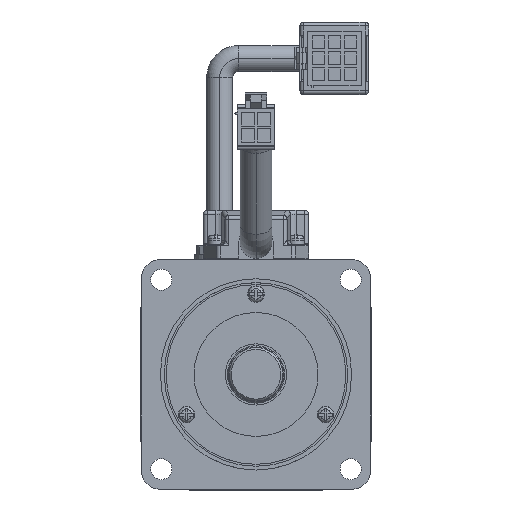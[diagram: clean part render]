
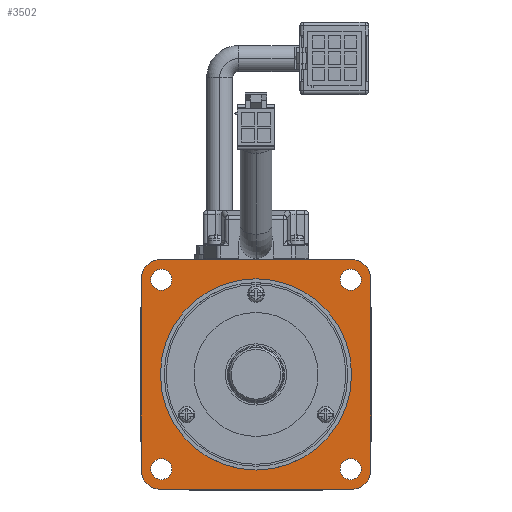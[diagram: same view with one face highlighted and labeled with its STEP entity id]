
A CAD part, top view. The second image highlights one B-rep face of the part: STEP entity #3502.
In plain terms, the highlighted planar face has unit normal (0, 0, 1) as drawn and (0, 0, -1) by its records, which use the part's own axes.
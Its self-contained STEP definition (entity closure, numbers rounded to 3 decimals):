
#1749=CARTESIAN_POINT('',(0.,0.,3.));
#1750=DIRECTION('',(0.,0.,1.));
#1751=DIRECTION('',(-1.,0.,0.));
#1752=AXIS2_PLACEMENT_3D('',#1749,#1750,#1751);
#1754=CARTESIAN_POINT('',(0.,0.,3.));
#1755=DIRECTION('',(0.,0.,1.));
#1756=DIRECTION('',(1.,0.,0.));
#1757=AXIS2_PLACEMENT_3D('',#1754,#1755,#1756);
#1759=CARTESIAN_POINT('',(25.,25.,3.));
#1760=DIRECTION('',(0.,0.,-1.));
#1761=DIRECTION('',(0.,1.,0.));
#1762=AXIS2_PLACEMENT_3D('',#1759,#1760,#1761);
#1764=CARTESIAN_POINT('',(-25.,25.,3.));
#1765=DIRECTION('',(0.,0.,-1.));
#1766=DIRECTION('',(-1.,0.,0.));
#1767=AXIS2_PLACEMENT_3D('',#1764,#1765,#1766);
#1769=CARTESIAN_POINT('',(-25.,-25.,3.));
#1770=DIRECTION('',(0.,0.,-1.));
#1771=DIRECTION('',(0.,-1.,0.));
#1772=AXIS2_PLACEMENT_3D('',#1769,#1770,#1771);
#1774=CARTESIAN_POINT('',(25.,-25.,3.));
#1775=DIRECTION('',(0.,0.,-1.));
#1776=DIRECTION('',(1.,0.,0.));
#1777=AXIS2_PLACEMENT_3D('',#1774,#1775,#1776);
#1779=CARTESIAN_POINT('',(-24.749,24.749,3.));
#1780=DIRECTION('',(0.,0.,-1.));
#1781=DIRECTION('',(-1.,0.,0.));
#1782=AXIS2_PLACEMENT_3D('',#1779,#1780,#1781);
#1784=CARTESIAN_POINT('',(-24.749,24.749,3.));
#1785=DIRECTION('',(0.,0.,-1.));
#1786=DIRECTION('',(1.,0.,0.));
#1787=AXIS2_PLACEMENT_3D('',#1784,#1785,#1786);
#1789=CARTESIAN_POINT('',(24.749,24.749,3.));
#1790=DIRECTION('',(0.,0.,-1.));
#1791=DIRECTION('',(-1.,0.,0.));
#1792=AXIS2_PLACEMENT_3D('',#1789,#1790,#1791);
#1794=CARTESIAN_POINT('',(24.749,24.749,3.));
#1795=DIRECTION('',(0.,0.,-1.));
#1796=DIRECTION('',(1.,0.,0.));
#1797=AXIS2_PLACEMENT_3D('',#1794,#1795,#1796);
#1799=CARTESIAN_POINT('',(24.749,-24.749,3.));
#1800=DIRECTION('',(0.,0.,-1.));
#1801=DIRECTION('',(-1.,0.,0.));
#1802=AXIS2_PLACEMENT_3D('',#1799,#1800,#1801);
#1804=CARTESIAN_POINT('',(24.749,-24.749,3.));
#1805=DIRECTION('',(0.,0.,-1.));
#1806=DIRECTION('',(1.,0.,0.));
#1807=AXIS2_PLACEMENT_3D('',#1804,#1805,#1806);
#1809=CARTESIAN_POINT('',(-24.749,-24.749,3.));
#1810=DIRECTION('',(0.,0.,-1.));
#1811=DIRECTION('',(-1.,0.,0.));
#1812=AXIS2_PLACEMENT_3D('',#1809,#1810,#1811);
#1814=CARTESIAN_POINT('',(-24.749,-24.749,3.));
#1815=DIRECTION('',(0.,0.,-1.));
#1816=DIRECTION('',(1.,0.,0.));
#1817=AXIS2_PLACEMENT_3D('',#1814,#1815,#1816);
#1827=DIRECTION('',(1.,0.,0.));
#1828=VECTOR('',#1827,50.);
#1829=CARTESIAN_POINT('',(-25.,30.,3.));
#1830=LINE('',#1829,#1828);
#2270=DIRECTION('',(-1.,0.,0.));
#2271=VECTOR('',#2270,50.);
#2272=CARTESIAN_POINT('',(25.,-30.,3.));
#2273=LINE('',#2272,#2271);
#2581=DIRECTION('',(0.,1.,0.));
#2582=VECTOR('',#2581,50.);
#2583=CARTESIAN_POINT('',(-30.,-25.,3.));
#2584=LINE('',#2583,#2582);
#2793=DIRECTION('',(0.,-1.,0.));
#2794=VECTOR('',#2793,50.);
#2795=CARTESIAN_POINT('',(30.,25.,3.));
#2796=LINE('',#2795,#2794);
#3025=CARTESIAN_POINT('',(-25.,0.,3.));
#3026=CARTESIAN_POINT('',(25.,0.,3.));
#3027=VERTEX_POINT('',#3025);
#3028=VERTEX_POINT('',#3026);
#3057=CARTESIAN_POINT('',(25.,30.,3.));
#3059=VERTEX_POINT('',#3057);
#3061=CARTESIAN_POINT('',(30.,25.,3.));
#3062=VERTEX_POINT('',#3061);
#3065=CARTESIAN_POINT('',(-30.,25.,3.));
#3067=VERTEX_POINT('',#3065);
#3069=CARTESIAN_POINT('',(-25.,30.,3.));
#3070=VERTEX_POINT('',#3069);
#3073=CARTESIAN_POINT('',(30.,-25.,3.));
#3075=VERTEX_POINT('',#3073);
#3077=CARTESIAN_POINT('',(25.,-30.,3.));
#3078=VERTEX_POINT('',#3077);
#3081=CARTESIAN_POINT('',(-25.,-30.,3.));
#3083=VERTEX_POINT('',#3081);
#3085=CARTESIAN_POINT('',(-30.,-25.,3.));
#3086=VERTEX_POINT('',#3085);
#3161=CARTESIAN_POINT('',(-27.499,24.749,3.));
#3162=CARTESIAN_POINT('',(-21.999,24.749,3.));
#3163=VERTEX_POINT('',#3161);
#3164=VERTEX_POINT('',#3162);
#3165=CARTESIAN_POINT('',(21.999,24.749,3.));
#3166=CARTESIAN_POINT('',(27.499,24.749,3.));
#3167=VERTEX_POINT('',#3165);
#3168=VERTEX_POINT('',#3166);
#3169=CARTESIAN_POINT('',(21.999,-24.749,3.));
#3170=CARTESIAN_POINT('',(27.499,-24.749,3.));
#3171=VERTEX_POINT('',#3169);
#3172=VERTEX_POINT('',#3170);
#3173=CARTESIAN_POINT('',(-27.499,-24.749,3.));
#3174=CARTESIAN_POINT('',(-21.999,-24.749,3.));
#3175=VERTEX_POINT('',#3173);
#3176=VERTEX_POINT('',#3174);
#3451=CARTESIAN_POINT('',(0.,0.,3.));
#3452=DIRECTION('',(0.,0.,-1.));
#3453=DIRECTION('',(-1.,0.,0.));
#3454=AXIS2_PLACEMENT_3D('',#3451,#3452,#3453);
#3455=PLANE('',#3454);
#3457=ORIENTED_EDGE('',*,*,#3456,.F.);
#3459=ORIENTED_EDGE('',*,*,#3458,.F.);
#3461=ORIENTED_EDGE('',*,*,#3460,.F.);
#3463=ORIENTED_EDGE('',*,*,#3462,.F.);
#3465=ORIENTED_EDGE('',*,*,#3464,.F.);
#3467=ORIENTED_EDGE('',*,*,#3466,.F.);
#3469=ORIENTED_EDGE('',*,*,#3468,.F.);
#3471=ORIENTED_EDGE('',*,*,#3470,.F.);
#3472=EDGE_LOOP('',(#3457,#3459,#3461,#3463,#3465,#3467,#3469,#3471));
#3473=FACE_OUTER_BOUND('',#3472,.F.);
#3474=ORIENTED_EDGE('',*,*,#3431,.F.);
#3475=ORIENTED_EDGE('',*,*,#3445,.F.);
#3476=EDGE_LOOP('',(#3474,#3475));
#3477=FACE_BOUND('',#3476,.F.);
#3479=ORIENTED_EDGE('',*,*,#3478,.T.);
#3481=ORIENTED_EDGE('',*,*,#3480,.T.);
#3482=EDGE_LOOP('',(#3479,#3481));
#3483=FACE_BOUND('',#3482,.F.);
#3485=ORIENTED_EDGE('',*,*,#3484,.T.);
#3487=ORIENTED_EDGE('',*,*,#3486,.T.);
#3488=EDGE_LOOP('',(#3485,#3487));
#3489=FACE_BOUND('',#3488,.F.);
#3491=ORIENTED_EDGE('',*,*,#3490,.T.);
#3493=ORIENTED_EDGE('',*,*,#3492,.T.);
#3494=EDGE_LOOP('',(#3491,#3493));
#3495=FACE_BOUND('',#3494,.F.);
#3497=ORIENTED_EDGE('',*,*,#3496,.T.);
#3499=ORIENTED_EDGE('',*,*,#3498,.T.);
#3500=EDGE_LOOP('',(#3497,#3499));
#3501=FACE_BOUND('',#3500,.F.);
#3502=ADVANCED_FACE('',(#3473,#3477,#3483,#3489,#3495,#3501),#3455,.T.);
#1753=CIRCLE('',#1752,25.);
#1758=CIRCLE('',#1757,25.);
#1763=CIRCLE('',#1762,5.);
#1768=CIRCLE('',#1767,5.);
#1773=CIRCLE('',#1772,5.);
#1778=CIRCLE('',#1777,5.);
#1783=CIRCLE('',#1782,2.75);
#1788=CIRCLE('',#1787,2.75);
#1793=CIRCLE('',#1792,2.75);
#1798=CIRCLE('',#1797,2.75);
#1803=CIRCLE('',#1802,2.75);
#1808=CIRCLE('',#1807,2.75);
#1813=CIRCLE('',#1812,2.75);
#1818=CIRCLE('',#1817,2.75);
#3431=EDGE_CURVE('',#3027,#3028,#1753,.T.);
#3445=EDGE_CURVE('',#3028,#3027,#1758,.T.);
#3456=EDGE_CURVE('',#3059,#3062,#1763,.T.);
#3458=EDGE_CURVE('',#3070,#3059,#1830,.T.);
#3460=EDGE_CURVE('',#3067,#3070,#1768,.T.);
#3462=EDGE_CURVE('',#3086,#3067,#2584,.T.);
#3464=EDGE_CURVE('',#3083,#3086,#1773,.T.);
#3466=EDGE_CURVE('',#3078,#3083,#2273,.T.);
#3468=EDGE_CURVE('',#3075,#3078,#1778,.T.);
#3470=EDGE_CURVE('',#3062,#3075,#2796,.T.);
#3478=EDGE_CURVE('',#3163,#3164,#1783,.T.);
#3480=EDGE_CURVE('',#3164,#3163,#1788,.T.);
#3484=EDGE_CURVE('',#3167,#3168,#1793,.T.);
#3486=EDGE_CURVE('',#3168,#3167,#1798,.T.);
#3490=EDGE_CURVE('',#3171,#3172,#1803,.T.);
#3492=EDGE_CURVE('',#3172,#3171,#1808,.T.);
#3496=EDGE_CURVE('',#3175,#3176,#1813,.T.);
#3498=EDGE_CURVE('',#3176,#3175,#1818,.T.);
